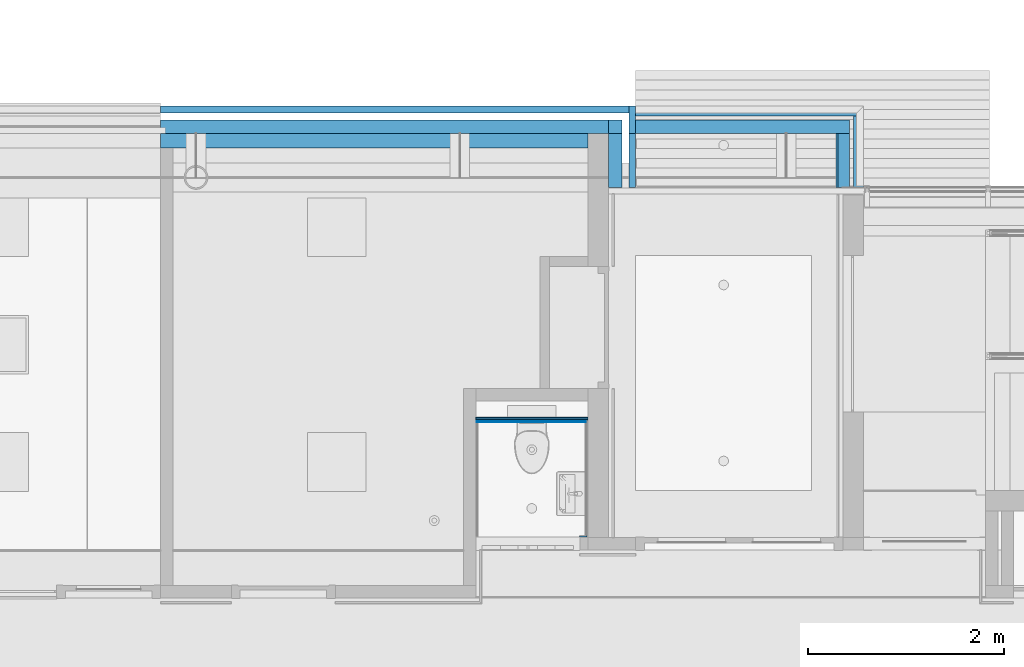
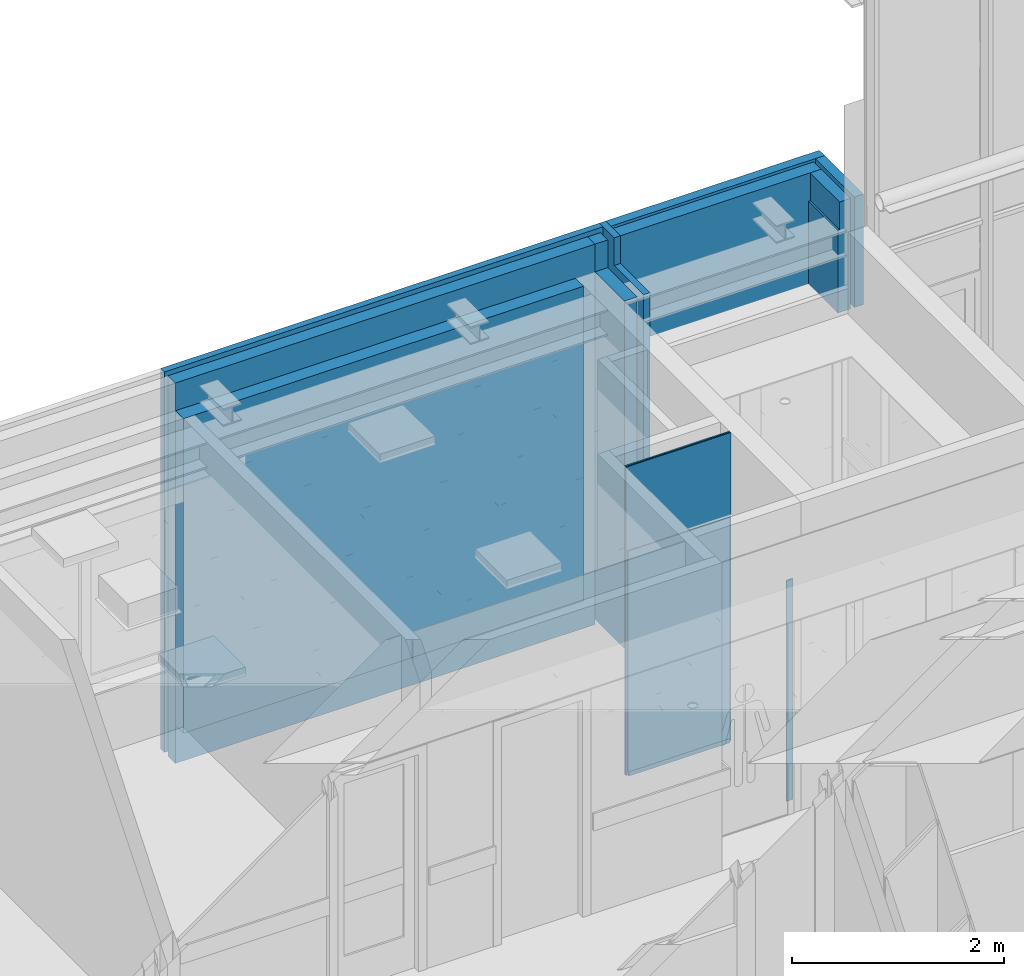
# One storey, part 93 of 347: 14 building element parts, 7 elements without a shape of their own.
"""IFC2X3 building model written with IfcOpenShell, lengths in millimetres."""

from ifc_helpers import new_model, entity, si_unit, converted_unit, derived_unit, money_unit, direction, frame, origin_with_axes, place, context, subcontext, project, spatial, faceted_brep, material, type_object, element, aggregate, save


model = new_model("IFC2X3")

# Units and contexts
model_context = context("Model", 3, precision=0.01, world=origin_with_axes(), true_north=direction((0.0, 1.0)))
plan_context = context("Plan", 3, precision=0.01, world=origin_with_axes(), true_north=direction((0.0, 1.0)))
body_context = subcontext(model_context, "Body", "Model", "MODEL_VIEW")
ifc_project = project(units=[si_unit("LENGTHUNIT", "METRE", prefix="MILLI"), si_unit("AREAUNIT", "SQUARE_METRE"), si_unit("VOLUMEUNIT", "CUBIC_METRE"), converted_unit("PLANEANGLEUNIT", "DEGREE", entity("IfcPlaneAngleMeasure", 0.0174532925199), si_unit("PLANEANGLEUNIT", "RADIAN"), dimensions=[0, 0, 0, 0, 0, 0, 0]), money_unit("EUR"), converted_unit("TIMEUNIT", "Year", entity("IfcTimeMeasure", 31556926.0), si_unit("TIMEUNIT", "SECOND"), dimensions=[0, 0, 1, 0, 0, 0, 0]), si_unit("MASSUNIT", "GRAM", prefix="KILO"), si_unit("THERMODYNAMICTEMPERATUREUNIT", "DEGREE_CELSIUS"), si_unit("LUMINOUSINTENSITYUNIT", "LUMEN"), si_unit("ENERGYUNIT", "JOULE", prefix="MEGA"), derived_unit("THERMALCONDUCTANCEUNIT", [(si_unit("POWERUNIT", "WATT"), 1), (si_unit("LENGTHUNIT", "METRE"), -1), (si_unit("THERMODYNAMICTEMPERATUREUNIT", "KELVIN"), -1)]), derived_unit("SPECIFICHEATCAPACITYUNIT", [(si_unit("ENERGYUNIT", "JOULE"), 1), (si_unit("MASSUNIT", "GRAM", prefix="KILO"), -1), (si_unit("THERMODYNAMICTEMPERATUREUNIT", "KELVIN"), -1)]), derived_unit("MASSDENSITYUNIT", [(si_unit("MASSUNIT", "GRAM", prefix="KILO"), 1), (si_unit("VOLUMEUNIT", "CUBIC_METRE"), -1)])], contexts=[model_context, plan_context])

# Site, building, storey
site_placement = place(None, origin_with_axes())
site = spatial("IfcSite", under=ifc_project, at=site_placement, Name="Site", CompositionType="ELEMENT")
building_placement = place(site_placement, origin_with_axes())
building = spatial("IfcBuilding", under=site, at=building_placement, Name="Naam gebouw", CompositionType="ELEMENT")
storey_placement = place(building_placement, origin_with_axes())
storey = spatial("IfcBuildingStorey", under=building, at=storey_placement, Name="begane grond", CompositionType="ELEMENT", Elevation=0.0)

# Wall, building element parts
wall_type_1 = type_object("IfcWallType", Name="ALG LSW sanitair 100", PredefinedType="NOTDEFINED")
wall_1_placement = place(storey_placement, frame((15795.0, 16215.0, 0.0), z_axis=(0.0, 0.0, 1.0), x_axis=(-1.0, 0.0, 0.0)))
wall_1 = element("IfcWall", 1, at=wall_1_placement, inside=storey, type_object=wall_type_1, Name="22_GF 100 ECO RD V/75.2.A")
ifc_material_1 = material(Name="ALG - LICHTE SCHEIDINGSWAND AFW")
building_element_part_1_placement = place(wall_1_placement, origin_with_axes())
building_element_part_1 = element("IfcBuildingElementPart", 2, at=building_element_part_1_placement, material=ifc_material_1, Name="ALG - LICHTE SCHEIDINGSWAND AFW", context=body_context, shape_type="Brep", body=[
    faceted_brep([(1145.0, -12.0, 3560.0), (0.0, -12.0, 3560.0), (0.0, -12.0, 0.0), (1145.0, -12.0, 0.0), (0.0, 0.0, 3560.0), (1145.0, 0.0, 3560.0), (0.0, 0.0, 0.0), (1145.0, 0.0, 0.0)], [[[0, 1, 2, 3]], [[4, 1, 0, 5]], [[1, 4, 6, 2]], [[6, 7, 3, 2]], [[5, 0, 3, 7]], [[4, 5, 7, 6]]]),
])
ifc_material_2 = material(Name="Hout - Multiplex wbp")
building_element_part_2_placement = place(wall_1_placement, origin_with_axes())
building_element_part_2 = element("IfcBuildingElementPart", 3, at=building_element_part_2_placement, material=ifc_material_2, Name="Hout - Multiplex wbp", context=body_context, shape_type="Brep", body=[
    faceted_brep([(1145.0, -30.0, 3560.0), (0.0, -30.0, 3560.0), (0.0, -30.0, 0.0), (1145.0, -30.0, 0.0), (0.0, -12.0, 3560.0), (1145.0, -12.0, 3560.0), (0.0, -12.0, 0.0), (1145.0, -12.0, 0.0)], [[[0, 1, 2, 3]], [[4, 1, 0, 5]], [[1, 4, 6, 2]], [[6, 7, 3, 2]], [[5, 0, 3, 7]], [[4, 5, 7, 6]]]),
])
aggregate(wall_1, [building_element_part_1, building_element_part_2])

wall_type_2 = type_object("IfcWallType", Name="22 beg metselwerk (entree) 280 x 4330", PredefinedType="NOTDEFINED")
wall_2_placement = place(storey_placement, frame((16005.0, 19000.0000224, 0.0), z_axis=(0.0, 0.0, 1.0), x_axis=(0.0, -1.0, 0.0)))
wall_2 = element("IfcWall", 4, at=wall_2_placement, inside=storey, type_object=wall_type_2, Name="21_21 betonwand")
ifc_material_3 = material(Name="Steen - Baksteen")
building_element_part_3_placement = place(wall_2_placement, origin_with_axes())
building_element_part_3 = element("IfcBuildingElementPart", 5, at=building_element_part_3_placement, material=ifc_material_3, Name="Steen - Baksteen", context=body_context, shape_type="Brep", body=[
    faceted_brep([(-149.999977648, 210.000002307, 3880.0), (-149.999977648, 280.00008173, 3880.0), (-430.000094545, 280.00008173, 3880.0), (-430.000094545, 210.000002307, 3880.0), (-149.999977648, 280.00008173, 3560.0), (-149.999977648, 210.000002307, 3560.0), (405.000022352, 280.00008173, 3560.0), (405.000022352, 280.00008173, -450.0), (-430.000094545, 280.00008173, -450.0), (-430.000094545, 210.000002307, -450.0), (405.000022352, 210.000002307, -450.0), (405.000022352, 210.000002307, 3560.0)], [[[0, 1, 2, 3]], [[4, 1, 0, 5]], [[4, 6, 7, 8, 2, 1]], [[9, 3, 2, 8]], [[5, 0, 3, 9, 10, 11]], [[4, 5, 11, 6]], [[6, 11, 10, 7]], [[10, 9, 8, 7]]]),
])
ifc_material_4 = material(Name="Isolatie - Kunststof hard")
building_element_part_4_placement = place(wall_2_placement, origin_with_axes())
building_element_part_4 = element("IfcBuildingElementPart", 6, at=building_element_part_4_placement, material=ifc_material_4, Name="Isolatie - Kunststof hard", context=body_context, shape_type="Brep", body=[
    faceted_brep([(-149.999977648, 0.0, 3880.0), (-149.999977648, 140.0, 3880.0), (-289.999998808, 140.0, 3880.0), (-289.999998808, 0.0, 3880.0), (-149.999977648, 140.0, 3560.0), (-149.999977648, 0.0, 3560.0), (405.000022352, 140.0, 3560.0), (405.000022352, 140.0, -450.0), (-289.999998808, 140.0, -449.999998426), (-289.999998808, 0.0, -449.999998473), (405.000022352, 0.0, -450.0), (405.000022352, 0.0, 3560.0)], [[[0, 1, 2, 3]], [[4, 1, 0, 5]], [[4, 6, 7, 8, 2, 1]], [[9, 3, 2, 8]], [[5, 0, 3, 9, 10, 11]], [[4, 5, 11, 6]], [[6, 11, 10, 7]], [[10, 9, 8, 7]]]),
])
aggregate(wall_2, [building_element_part_3, building_element_part_4])

# Proxy, building element parts
building_element_proxy_type = type_object("IfcBuildingElementProxyType", Name="wandtegels 150x300 2600+ 10 x 2600", PredefinedType="NOTDEFINED")
proxy_1_placement = place(storey_placement, frame((15785.0, 16205.0, 0.0), z_axis=(0.0, 0.0, 1.0), x_axis=(-1.0, 0.0, 0.0)))
proxy_1 = element("IfcBuildingElementProxy", 7, at=proxy_1_placement, inside=storey, type_object=building_element_proxy_type, Name="42_54 wandtegels keramisch")
ifc_material_5 = material(Name="48 vloeivloer Bolidt")
building_element_part_5_placement = place(proxy_1_placement, origin_with_axes())
building_element_part_5 = element("IfcBuildingElementPart", 8, at=building_element_part_5_placement, material=ifc_material_5, Name="48 vloeivloer Bolidt", context=body_context, shape_type="Brep", body=[
    faceted_brep([(10.0000089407, 10.0000089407, 50.0000059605), (10.0000089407, 8.00001490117, 50.0000059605), (1116.99999702, 8.00001490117, 50.0000059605), (1116.99999702, 10.0000089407, 50.0000059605), (10.0000089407, 8.00001490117, 0.0), (10.0000089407, 10.0000089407, 0.0), (1116.99999702, 8.00001490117, 0.0), (1116.99999702, 10.0000089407, 0.0)], [[[0, 1, 2, 3]], [[4, 1, 0, 5]], [[1, 4, 6, 2]], [[7, 3, 2, 6]], [[5, 0, 3, 7]], [[4, 5, 7, 6]]]),
])
ifc_material_6 = material(Name="Tegels - Wand")
building_element_part_6_placement = place(proxy_1_placement, origin_with_axes())
building_element_part_6 = element("IfcBuildingElementPart", 9, at=building_element_part_6_placement, material=ifc_material_6, Name="Tegels - Wand", context=body_context, shape_type="Brep", body=[
    faceted_brep([(10.0, 10.0, 2600.0), (10.0, 0.0, 2600.0), (1125.00001192, 0.0, 2600.0), (1125.00001192, 10.0, 2600.0), (10.0, 0.0, 50.0), (10.0, 10.0, 50.0), (10.0, 8.00001490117, 50.0), (1125.00001192, 0.0, 50.0000059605), (1125.00001192, 10.0, 50.0000059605), (1125.00001192, 8.00001490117, 50.0000059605)], [[[0, 1, 2, 3]], [[4, 1, 0, 5, 6]], [[1, 4, 7, 2]], [[8, 3, 2, 7, 9]], [[5, 0, 3, 8]], [[6, 5, 8, 9]], [[4, 6, 9, 7]]]),
])
aggregate(proxy_1, [building_element_part_5, building_element_part_6])

# Proxy, building element part
proxy_2_placement = place(storey_placement, frame((15714.0, 15025.0, 0.0), z_axis=(0.0, 0.0, 1.0), x_axis=(1.0, 0.0, 0.0)))
proxy_2 = element("IfcBuildingElementProxy", 10, at=proxy_2_placement, inside=storey, type_object=building_element_proxy_type, Name="42_52 wandtegels keramisch")
building_element_part_7_placement = place(proxy_2_placement, origin_with_axes())
building_element_part_7 = element("IfcBuildingElementPart", 11, at=building_element_part_7_placement, material=ifc_material_6, Name="Tegels - Wand", context=body_context, shape_type="Brep", body=[
    faceted_brep([(71.0000119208, 0.0, 2600.0), (71.0000119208, 10.0, 2600.0), (0.0, 10.0, 2600.0), (0.0, 0.0, 2600.0), (71.0000119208, 10.0, 50.0000059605), (71.0000119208, 0.0, 50.0000059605), (71.0000119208, 8.00001490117, 50.0000059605), (0.0, 10.0, 50.0), (0.0, 0.0, 50.0), (0.0, 8.00001490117, 50.0000059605)], [[[0, 1, 2, 3]], [[4, 1, 0, 5, 6]], [[1, 4, 7, 2]], [[8, 3, 2, 7, 9]], [[5, 0, 3, 8]], [[6, 5, 8, 9]], [[4, 6, 9, 7]]]),
])
aggregate(proxy_2, [building_element_part_7])

# Wall, building element parts
wall_type_3 = type_object("IfcWallType", Name="22 beg metselwerk 430 x 4390", PredefinedType="NOTDEFINED")
wall_3_placement = place(storey_placement, frame((16005.0, 19000.0000224, 0.0), z_axis=(0.0, 0.0, 1.0), x_axis=(-1.0, -4.88029762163e-09, 0.0)))
wall_3 = element("IfcWall", 12, at=wall_3_placement, inside=storey, type_object=wall_type_3, Name="21_21 betonwand")
ifc_material_7 = material(Name="Steen - Kalkzandsteen C")
building_element_part_8_placement = place(wall_3_placement, origin_with_axes())
building_element_part_8 = element("IfcBuildingElementPart", 13, at=building_element_part_8_placement, material=ifc_material_7, Name="Steen - Kalkzandsteen C", context=body_context, shape_type="Brep", body=[
    faceted_brep([(4580.0000021, -4.54485835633e-05, 3559.99997586), (210.0, -2.41216824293e-05, 3559.99997586), (209.999999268, -149.999998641, 3559.99997586), (4580.00000137, -150.000019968, 3559.99997586), (4580.0000021, -4.54485835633e-05, -69.9999831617), (210.0, -2.41216824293e-05, -69.9999831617), (209.999999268, -149.999998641, -69.9999831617), (4580.00000137, -150.000019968, -69.9999831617)], [[[0, 1, 2, 3]], [[4, 5, 1, 0]], [[5, 6, 2, 1]], [[3, 2, 6, 7]], [[7, 4, 0, 3]], [[7, 6, 5, 4]]]),
])
building_element_part_9_placement = place(wall_3_placement, origin_with_axes())
building_element_part_9 = element("IfcBuildingElementPart", 14, at=building_element_part_9_placement, material=ifc_material_4, Name="Isolatie - Kunststof hard", context=body_context, shape_type="Brep", body=[
    faceted_brep([(4580.00000137, -150.000022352, 3880.0), (-7.32043758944e-07, -150.0, 3880.0), (-1.41528389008e-06, -290.0, 3880.0), (4580.00000068, -290.000022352, 3880.0), (4580.00000137, -150.000019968, 3559.99997586), (-7.32043758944e-07, -149.999997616, 3559.99997586), (-7.32043758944e-07, -149.999997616, -69.9999831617), (-7.32043758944e-07, -150.000011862, -450.0), (1.36648381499e-06, -150.000011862, -510.0), (6.83243683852e-07, -290.0, -510.0), (4580.00000068, -290.000022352, -510.0), (4580.00000137, -150.000022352, -510.0), (4580.00000137, -150.000019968, -69.9999831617)], [[[0, 1, 2, 3]], [[4, 5, 1, 0]], [[2, 1, 5, 6, 7, 8, 9]], [[3, 2, 9, 10]], [[4, 0, 3, 10, 11, 12]], [[12, 6, 5, 4]], [[8, 7, 6, 12, 11]], [[11, 10, 9, 8]]]),
])
building_element_part_10_placement = place(wall_3_placement, origin_with_axes())
building_element_part_10 = element("IfcBuildingElementPart", 15, at=building_element_part_10_placement, material=ifc_material_3, Name="Steen - Baksteen", context=body_context, shape_type="Brep", body=[
    faceted_brep([(4580.00000034, -360.000037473, 3880.0), (-210.000004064, -360.000014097, 3880.0), (-210.000004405, -430.00009352, 3880.0), (4580.0, -430.000104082, 3880.0), (-210.000004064, -360.000014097, -450.0), (4580.00000034, -360.000037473, -510.0), (3.41621841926e-07, -360.000015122, -510.0), (3.41621841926e-07, -360.000015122, -449.999998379), (-210.000004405, -430.00009352, -450.0), (0.0, -430.000081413, -449.999998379), (0.0, -430.000081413, -510.0), (4580.0, -430.000104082, -510.0)], [[[0, 1, 2, 3]], [[4, 1, 0, 5, 6, 7]], [[8, 2, 1, 4]], [[3, 2, 8, 9, 10, 11]], [[3, 11, 5, 0]], [[5, 11, 10, 6]], [[7, 6, 10, 9]], [[9, 8, 4, 7]]]),
])
aggregate(wall_3, [building_element_part_8, building_element_part_9, building_element_part_10])

wall_type_4 = type_object("IfcWallType", Name="21 buitenwand spouwmuur excl. 280", PredefinedType="NOTDEFINED")
wall_4_placement = place(storey_placement, frame((18615.0, 19430.000089, 2604.99999881), z_axis=(0.0, 0.0, 1.0), x_axis=(0.0, -1.0, 0.0)))
wall_4 = element("IfcWall", 16, at=wall_4_placement, inside=storey, type_object=wall_type_4, Name="21_21 betonwand")
building_element_part_11_placement = place(wall_4_placement, origin_with_axes())
building_element_part_11 = element("IfcBuildingElementPart", 17, at=building_element_part_11_placement, material=ifc_material_3, Name="Steen - Baksteen", context=body_context, shape_type="Brep", body=[
    faceted_brep([(100.0, -100.0, 1275.00000119), (835.000088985, -100.0, 1275.00000119), (835.000088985, 0.0, 1275.00000119), (100.0, 0.0, 1275.00000119), (100.0, -100.0, 0.0), (835.000088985, -100.0, 0.0), (835.000088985, 0.0, 0.0), (100.0, 0.0, 0.0)], [[[0, 1, 2, 3]], [[4, 5, 1, 0]], [[2, 1, 5, 6]], [[3, 2, 6, 7]], [[4, 0, 3, 7]], [[7, 6, 5, 4]]]),
])
building_element_part_12_placement = place(wall_4_placement, origin_with_axes())
building_element_part_12 = element("IfcBuildingElementPart", 18, at=building_element_part_12_placement, material=ifc_material_4, Name="Isolatie - Kunststof hard", context=body_context, shape_type="Brep", body=[
    faceted_brep([(280.0, -280.0, 0.0), (280.000088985, -280.0, 955.000001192), (280.000088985, -259.99997406, 955.000001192), (280.000088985, -259.99997406, 1275.00000119), (280.0, -140.0, 1275.00000119), (280.0, -140.0, 0.0), (835.000088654, -280.0, 955.000001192), (835.000088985, -280.0, 0.0), (835.000088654, -259.999895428, 955.000001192), (835.000088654, -259.999895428, 1275.00000119), (640.00002193, -259.999895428, 1275.00000119), (835.000088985, -140.0, 1275.00000119), (835.000088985, -140.0, 0.0)], [[[0, 1, 2, 3, 4, 5]], [[6, 1, 0, 7]], [[8, 2, 1, 6]], [[9, 10, 3, 2, 8]], [[4, 3, 10, 9, 11]], [[5, 4, 11, 12]], [[0, 5, 12, 7]], [[9, 8, 6, 7, 12, 11]]]),
])
aggregate(wall_4, [building_element_part_11, building_element_part_12])

wall_5_placement = place(storey_placement, frame((16285.0000653, 19430.000089, 2604.99999881), z_axis=(0.0, 0.0, 1.0), x_axis=(1.0, 0.0, 0.0)))
wall_5 = element("IfcWall", 19, at=wall_5_placement, inside=storey, type_object=wall_type_4, Name="21_21 betonwand")
building_element_part_13_placement = place(wall_5_placement, origin_with_axes())
building_element_part_13 = element("IfcBuildingElementPart", 20, at=building_element_part_13_placement, material=ifc_material_3, Name="Steen - Baksteen", context=body_context, shape_type="Brep", body=[
    faceted_brep([(2329.99993473, 0.0, 1275.00000119), (0.0, 0.0, 1275.00000119), (0.0, -100.0, 1275.00000119), (2329.99993473, -100.0, 1275.00000119), (2329.99993473, 0.0, 0.0), (0.0, 0.0, 0.0), (0.0, -100.0, 0.0), (2329.99993473, -100.0, 0.0)], [[[0, 1, 2, 3]], [[4, 5, 1, 0]], [[2, 1, 5, 6]], [[3, 2, 6, 7]], [[3, 7, 4, 0]], [[7, 6, 5, 4]]]),
])
building_element_part_14_placement = place(wall_5_placement, origin_with_axes())
building_element_part_14 = element("IfcBuildingElementPart", 21, at=building_element_part_14_placement, material=ifc_material_4, Name="Isolatie - Kunststof hard", context=body_context, shape_type="Brep", body=[
    faceted_brep([(2189.99993473, -280.0, 1275.00000119), (2189.99993473, -140.0, 1275.00000119), (0.0, -140.0, 1275.00000119), (0.0, -280.0, 1275.00000119), (2189.99993473, -280.0, 0.0), (2189.99993473, -140.0, 0.0), (0.0, -140.0, 0.0), (0.0, -280.0, 0.0)], [[[0, 1, 2, 3]], [[1, 0, 4, 5]], [[1, 5, 6, 2]], [[7, 3, 2, 6]], [[4, 0, 3, 7]], [[5, 4, 7, 6]]]),
])
aggregate(wall_5, [building_element_part_13, building_element_part_14])

save(model, "model.ifc")
